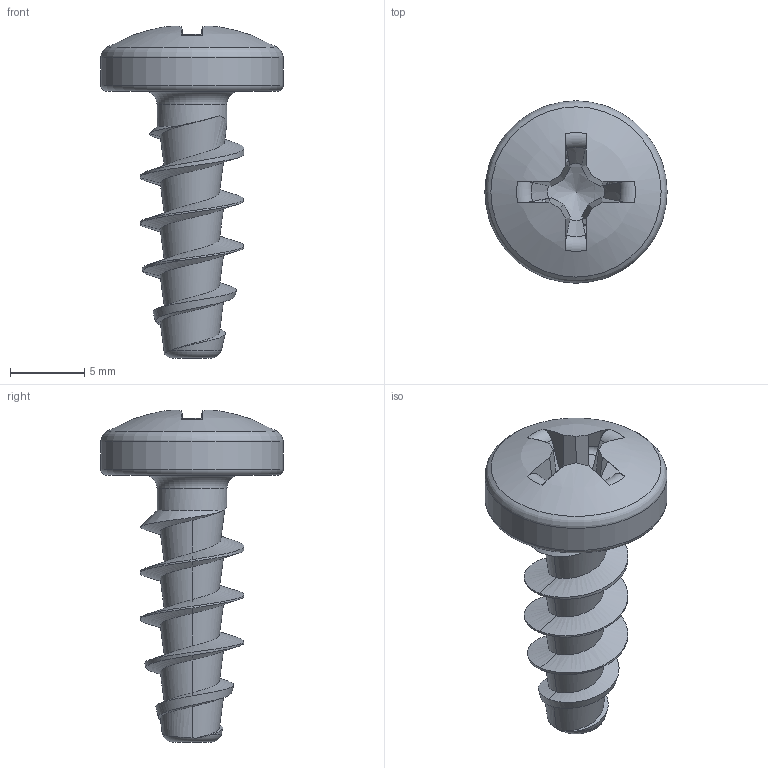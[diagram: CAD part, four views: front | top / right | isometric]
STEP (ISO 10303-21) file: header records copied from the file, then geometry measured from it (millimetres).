
FILE_DESCRIPTION(/* description */ (''),/* implementation_level */ '2;1');
FILE_NAME(/* name */ 'KN1032-Neu-STS-70x18-H3.step',/* time_stamp */ '2018-08-15T15:52:58+02:00',/* author */ (''),/* organization */ (''),/* preprocessor_version */ 'ST-DEVELOPER v16',/* originating_system */ 'SIEMENS PLM Software NX 10.0',/* authorisation */ '');
FILE_SCHEMA (('AUTOMOTIVE_DESIGN { 1 0 10303 214 3 1 1 1 }'));
Length unit declared in the file: millimetre
Products named in the file (1): KN1032-STS-70x18-H3
Bounding box: 12.3 x 12.3 x 22.39 mm (x, y, z)
Volume: 677.7 mm3; surface area: 775.6 mm2
Topology: 1 solids, 1 shells, 54 faces, 144 edges, 92 vertices
Faces by surface type: plane 18, bspline 17, torus 8, cone 7, cylinder 3, sphere 1
Full cylindrical faces by diameter (mm): 4.71 x1, 12.3 x1
Entity records: 2950 total; most frequent: CARTESIAN_POINT 1798, ORIENTED_EDGE 260, DIRECTION 180, EDGE_CURVE 130, VERTEX_POINT 87, AXIS2_PLACEMENT_3D 77, B_SPLINE_CURVE_WITH_KNOTS 65, EDGE_LOOP 62
